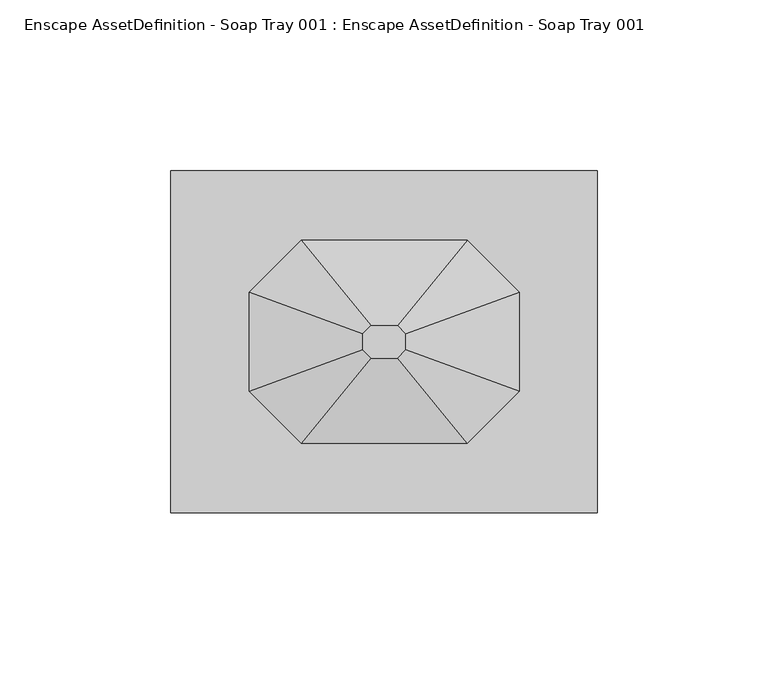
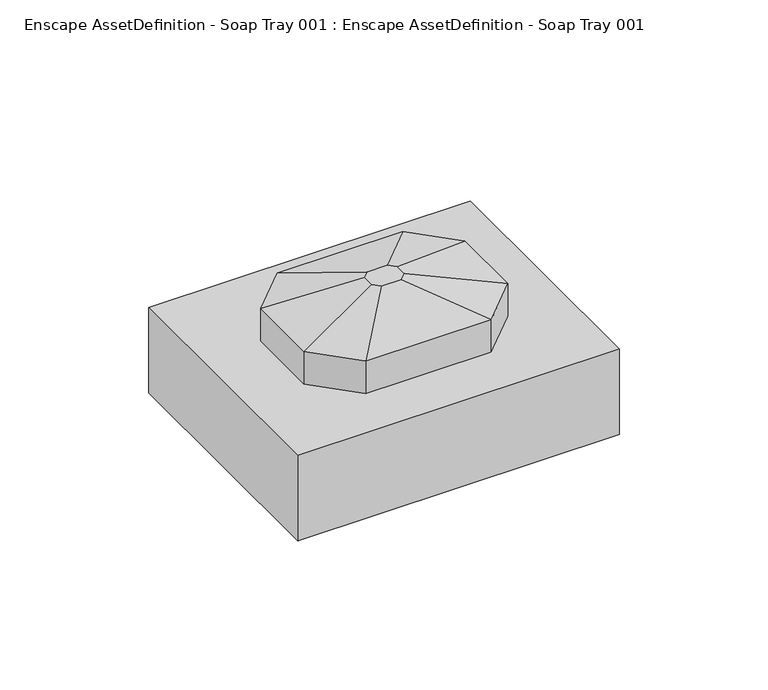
"""IFC4 building model written with IfcOpenShell, lengths in millimetres: geographic element geometry, Enscape AssetDefinition - Soap Tray 001 : Enscape AssetDefinition - Soap Tray 001."""

from ifc_helpers import new_model, si_unit, origin, place, context, project, spatial, triangles, source, transform, mapped, element, save


def enscape_assetdefinition_soap_tray_001_enscape_bdb6e4f8(model_context):
    return source(origin(), model_context, "Body", "Tessellation", [
        triangles([(62.4353287, 50.1343626, 0.0), (62.4353287, -50.1343626, 35.1943225), (-62.5646722, -50.1343626, 35.1943225), (-62.5646722, -50.1343626, 0.0), (62.4353287, 50.1343626, 35.1943225), (62.4353287, -50.1343626, 0.0), (-62.5646722, 50.1343626, 0.0), (-62.5646722, 50.1343626, 35.1943225), (-24.3432407, -29.780813, 33.2701644), (-19.446115, -23.7897566, 27.8857343), (-24.3432407, -29.780813, 48.3876806), (3.9185015, -4.7938474, 56.7982182), (-3.9185015, -4.7938474, 56.7982182), (6.3760881, -2.3362613, 56.7982182), (-6.3760881, -2.3362613, 56.7982182), (6.3760881, 2.3362613, 56.7982182), (39.6111587, -14.512895, 48.3876806), (39.6111587, 14.512895, 48.3876806), (24.3432407, -29.780813, 48.3876806), (39.6111587, 14.512895, 33.2701644), (39.6111587, -14.512895, 33.2701644), (19.446115, -23.7897566, 27.8857343), (31.6428019, -11.5930696, 27.8857343), (24.3432407, -29.780813, 33.2701644), (24.3432407, 29.780813, 48.3876806), (31.6428019, 11.5930696, 27.8857343), (19.446115, 23.7897566, 27.8857343), (24.3432407, 29.780813, 33.2701644), (-19.446115, 23.7897566, 27.8857343), (-24.3432407, 29.780813, 33.2701644), (-24.3432407, 29.780813, 48.3876806), (-39.6111587, 14.512895, 33.2701644), (3.9185015, 4.7938474, 56.7982182), (-6.3760881, 2.3362613, 56.7982182), (-3.9185015, 4.7938474, 56.7982182), (-39.6111587, 14.512895, 48.3876806), (-39.6111587, -14.512895, 33.2701644), (-31.6428019, -11.5930696, 27.8857343), (-31.6428019, 11.5930696, 27.8857343), (-39.6111587, -14.512895, 48.3876806)], [[10, 22, 24], [22, 10, 38], [40, 15, 34], [34, 36, 40], [37, 40, 36], [39, 38, 37], [29, 22, 38], [39, 29, 38], [29, 39, 32], [37, 32, 39], [36, 32, 37], [31, 36, 34], [34, 35, 31], [32, 36, 31], [31, 35, 33], [33, 35, 34], [33, 25, 31], [32, 30, 29], [31, 30, 32], [30, 31, 25], [27, 29, 30], [29, 26, 22], [26, 23, 22], [29, 27, 26], [26, 27, 28], [30, 28, 27], [25, 28, 30], [18, 25, 33], [28, 25, 18], [28, 20, 26], [23, 26, 20], [18, 20, 28], [21, 24, 22], [22, 23, 21], [20, 21, 23], [19, 24, 21], [21, 17, 19], [17, 21, 20], [20, 18, 17], [33, 16, 18], [17, 18, 16], [19, 17, 14], [16, 14, 17], [14, 16, 33], [13, 15, 40], [14, 33, 13], [33, 34, 13], [34, 15, 13], [14, 12, 19], [12, 14, 13], [40, 11, 13], [11, 19, 12], [12, 13, 11], [9, 37, 38], [38, 10, 9], [24, 9, 10], [9, 11, 40], [40, 37, 9], [19, 11, 9], [9, 24, 19], [3, 8, 7], [7, 4, 3], [8, 5, 1], [1, 7, 8], [5, 2, 6], [6, 1, 5], [2, 3, 4], [4, 6, 2], [5, 8, 3], [3, 2, 5], [1, 6, 4], [4, 7, 1]]),
    ])


if __name__ == "__main__":
    model = new_model("IFC4")
    model_context = context("Model", 3, world=origin())
    ifc_project = project(units=[si_unit("LENGTHUNIT", "METRE", prefix="MILLI")], contexts=[model_context])
    site = spatial("IfcSite", under=ifc_project)
    building = spatial("IfcBuilding", under=site)
    placement = place(None, origin())
    enscape_assetdefinition_soap_tray_001_enscape_shape = enscape_assetdefinition_soap_tray_001_enscape_bdb6e4f8(model_context)
    element("IfcGeographicElement", 1, ObjectType="Enscape AssetDefinition - Soap Tray 001 : Enscape AssetDefinition - Soap Tray 001", at=placement, inside=building, context=model_context, shape_type="MappedRepresentation", body=[
        mapped(enscape_assetdefinition_soap_tray_001_enscape_shape, transform((0.0, 0.0, 0.0), x_axis=(1.0, 0.0, 0.0), y_axis=(0.0, 1.0, 0.0), z_axis=(0.0, 0.0, 1.0))),
    ])
    save(model, "model.ifc")
